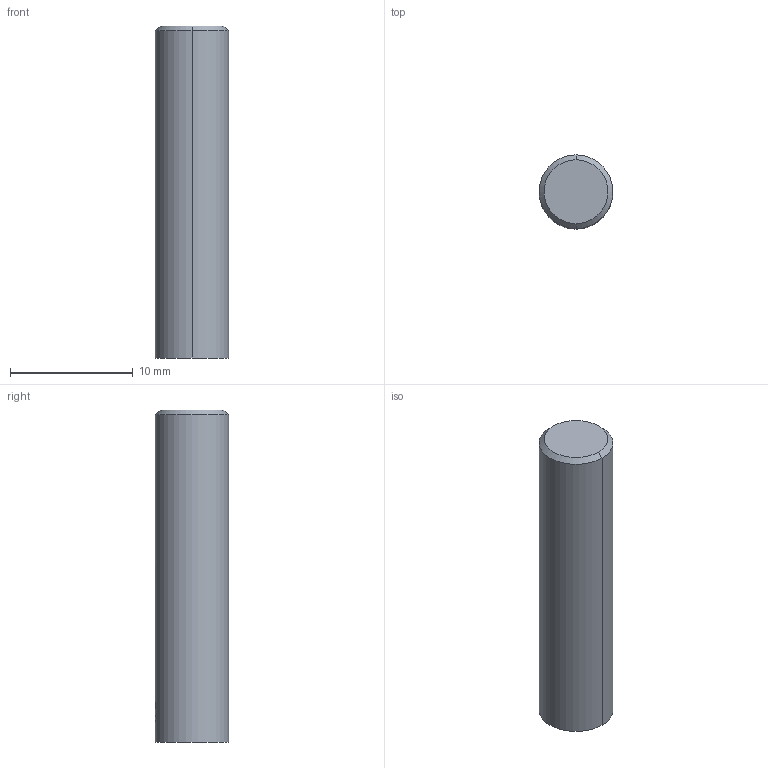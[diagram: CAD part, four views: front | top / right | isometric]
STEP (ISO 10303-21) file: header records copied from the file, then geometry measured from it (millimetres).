
FILE_DESCRIPTION(('no description'),'unknown implementation level');
FILE_NAME('solidQyr2behscWcam_hsCFsGknD61as_1.STP',' ',('CIMSOURCE GmbH'),('CADClick - KiM GmbH - www.kimweb.de'),'unknown preprocess','ACIS','unknown authorization');
FILE_SCHEMA(('automotive_design'));
Length unit declared in the file: millimetre
Products named in the file (1): NOCUT
Bounding box: 6 x 6 x 27 mm (x, y, z)
Volume: 762 mm3; surface area: 561 mm2
Topology: 1 solids, 1 shells, 19 faces, 49 edges, 32 vertices
Faces by surface type: cylinder 10, plane 7, cone 2
Entity records: 1361 total; most frequent: CARTESIAN_POINT 320, STYLED_ITEM 101, PRESENTATION_STYLE_ASSIGNMENT 101, COLOUR_RGB 101, ORIENTED_EDGE 98, DIRECTION 93, EDGE_CURVE 49, CURVE_STYLE 49
